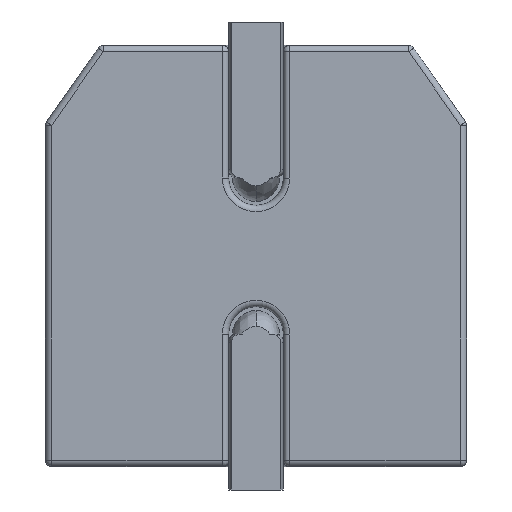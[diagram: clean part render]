
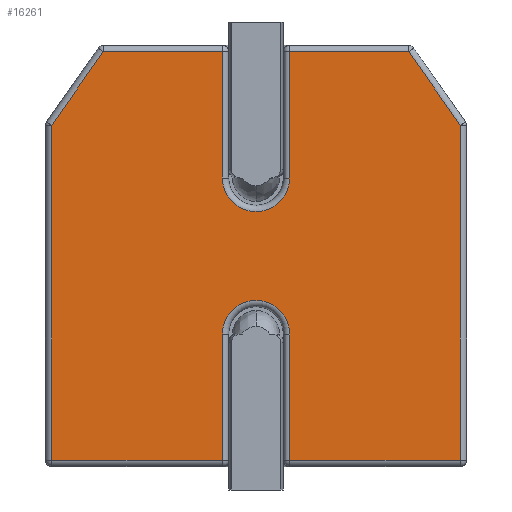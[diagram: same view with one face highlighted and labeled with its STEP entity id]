
A CAD part, left-side view. The second image highlights one B-rep face of the part: STEP entity #16261.
In plain terms, the highlighted planar face has unit normal (-1, 0, 0) as drawn and (0, -1, 0) by its records, which use the part's own axes.
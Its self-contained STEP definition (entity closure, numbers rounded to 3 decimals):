
#13943=DIRECTION('',(0.,0.,1.));
#13944=VECTOR('',#13943,4.295);
#13945=CARTESIAN_POINT('',(-2.62,0.,-2.62));
#13946=LINE('',#13945,#13944);
#13947=DIRECTION('',(-0.573,0.,-0.819));
#13948=VECTOR('',#13947,1.154);
#13949=CARTESIAN_POINT('',(-1.958,0.,2.62));
#13950=LINE('',#13949,#13948);
#13951=DIRECTION('',(-1.,0.,0.));
#13952=VECTOR('',#13951,1.528);
#13953=CARTESIAN_POINT('',(-0.43,0.,2.62));
#13954=LINE('',#13953,#13952);
#13955=DIRECTION('',(0.,0.,1.));
#13956=VECTOR('',#13955,1.62);
#13957=CARTESIAN_POINT('',(-0.43,0.,1.));
#13958=LINE('',#13957,#13956);
#13959=DIRECTION('',(0.,0.,-1.));
#13960=VECTOR('',#13959,1.62);
#13961=CARTESIAN_POINT('',(0.43,0.,2.62));
#13962=LINE('',#13961,#13960);
#13963=DIRECTION('',(-1.,0.,0.));
#13964=VECTOR('',#13963,1.528);
#13965=CARTESIAN_POINT('',(1.958,0.,2.62));
#13966=LINE('',#13965,#13964);
#13967=DIRECTION('',(-0.573,0.,0.819));
#13968=VECTOR('',#13967,1.154);
#13969=CARTESIAN_POINT('',(2.62,0.,1.675));
#13970=LINE('',#13969,#13968);
#13971=DIRECTION('',(0.,0.,1.));
#13972=VECTOR('',#13971,4.295);
#13973=CARTESIAN_POINT('',(2.62,0.,-2.62));
#13974=LINE('',#13973,#13972);
#13975=DIRECTION('',(1.,0.,0.));
#13976=VECTOR('',#13975,2.19);
#13977=CARTESIAN_POINT('',(0.43,0.,-2.62));
#13978=LINE('',#13977,#13976);
#13979=DIRECTION('',(0.,0.,-1.));
#13980=VECTOR('',#13979,1.62);
#13981=CARTESIAN_POINT('',(0.43,0.,-1.));
#13982=LINE('',#13981,#13980);
#13983=DIRECTION('',(0.,0.,1.));
#13984=VECTOR('',#13983,1.62);
#13985=CARTESIAN_POINT('',(-0.43,0.,-2.62));
#13986=LINE('',#13985,#13984);
#13987=DIRECTION('',(1.,0.,0.));
#13988=VECTOR('',#13987,2.19);
#13989=CARTESIAN_POINT('',(-2.62,0.,-2.62));
#13990=LINE('',#13989,#13988);
#14021=CARTESIAN_POINT('',(0.,0.,-1.));
#14022=DIRECTION('',(0.,1.,0.));
#14023=DIRECTION('',(-1.,0.,0.));
#14024=AXIS2_PLACEMENT_3D('',#14021,#14022,#14023);
#15484=CARTESIAN_POINT('',(0.,0.,1.));
#15485=DIRECTION('',(0.,1.,0.));
#15486=DIRECTION('',(1.,0.,0.));
#15487=AXIS2_PLACEMENT_3D('',#15484,#15485,#15486);
#16037=CARTESIAN_POINT('',(0.43,0.,-2.62));
#16038=CARTESIAN_POINT('',(2.62,0.,-2.62));
#16039=VERTEX_POINT('',#16037);
#16040=VERTEX_POINT('',#16038);
#16041=CARTESIAN_POINT('',(-0.43,0.,-2.62));
#16042=CARTESIAN_POINT('',(-0.43,0.,-1.));
#16043=VERTEX_POINT('',#16041);
#16044=VERTEX_POINT('',#16042);
#16051=CARTESIAN_POINT('',(0.43,0.,-1.));
#16052=VERTEX_POINT('',#16051);
#16088=CARTESIAN_POINT('',(-2.62,0.,-2.62));
#16089=VERTEX_POINT('',#16088);
#16090=CARTESIAN_POINT('',(-2.62,0.,1.675));
#16091=VERTEX_POINT('',#16090);
#16186=CARTESIAN_POINT('',(2.62,0.,1.675));
#16187=VERTEX_POINT('',#16186);
#16188=CARTESIAN_POINT('',(1.958,0.,2.62));
#16189=VERTEX_POINT('',#16188);
#16190=CARTESIAN_POINT('',(0.43,0.,2.62));
#16191=VERTEX_POINT('',#16190);
#16192=CARTESIAN_POINT('',(0.43,0.,1.));
#16193=VERTEX_POINT('',#16192);
#16200=CARTESIAN_POINT('',(-0.43,0.,1.));
#16201=CARTESIAN_POINT('',(-0.43,0.,2.62));
#16202=VERTEX_POINT('',#16200);
#16203=VERTEX_POINT('',#16201);
#16204=CARTESIAN_POINT('',(-1.958,0.,2.62));
#16205=VERTEX_POINT('',#16204);
#16226=CARTESIAN_POINT('',(0.,0.,0.));
#16227=DIRECTION('',(0.,1.,0.));
#16228=DIRECTION('',(0.,0.,1.));
#16229=AXIS2_PLACEMENT_3D('',#16226,#16227,#16228);
#16230=PLANE('',#16229);
#16232=ORIENTED_EDGE('',*,*,#16231,.T.);
#16234=ORIENTED_EDGE('',*,*,#16233,.F.);
#16236=ORIENTED_EDGE('',*,*,#16235,.F.);
#16238=ORIENTED_EDGE('',*,*,#16237,.F.);
#16240=ORIENTED_EDGE('',*,*,#16239,.F.);
#16242=ORIENTED_EDGE('',*,*,#16241,.F.);
#16244=ORIENTED_EDGE('',*,*,#16243,.F.);
#16246=ORIENTED_EDGE('',*,*,#16245,.F.);
#16248=ORIENTED_EDGE('',*,*,#16247,.F.);
#16250=ORIENTED_EDGE('',*,*,#16249,.F.);
#16252=ORIENTED_EDGE('',*,*,#16251,.F.);
#16254=ORIENTED_EDGE('',*,*,#16253,.F.);
#16256=ORIENTED_EDGE('',*,*,#16255,.F.);
#16258=ORIENTED_EDGE('',*,*,#16257,.F.);
#16259=EDGE_LOOP('',(#16232,#16234,#16236,#16238,#16240,#16242,#16244,#16246,
#16248,#16250,#16252,#16254,#16256,#16258));
#16260=FACE_OUTER_BOUND('',#16259,.F.);
#16261=ADVANCED_FACE('',(#16260),#16230,.F.);
#14025=CIRCLE('',#14024,0.43);
#15488=CIRCLE('',#15487,0.43);
#16231=EDGE_CURVE('',#16089,#16091,#13946,.T.);
#16233=EDGE_CURVE('',#16205,#16091,#13950,.T.);
#16235=EDGE_CURVE('',#16203,#16205,#13954,.T.);
#16237=EDGE_CURVE('',#16202,#16203,#13958,.T.);
#16239=EDGE_CURVE('',#16193,#16202,#15488,.T.);
#16241=EDGE_CURVE('',#16191,#16193,#13962,.T.);
#16243=EDGE_CURVE('',#16189,#16191,#13966,.T.);
#16245=EDGE_CURVE('',#16187,#16189,#13970,.T.);
#16247=EDGE_CURVE('',#16040,#16187,#13974,.T.);
#16249=EDGE_CURVE('',#16039,#16040,#13978,.T.);
#16251=EDGE_CURVE('',#16052,#16039,#13982,.T.);
#16253=EDGE_CURVE('',#16044,#16052,#14025,.T.);
#16255=EDGE_CURVE('',#16043,#16044,#13986,.T.);
#16257=EDGE_CURVE('',#16089,#16043,#13990,.T.);
